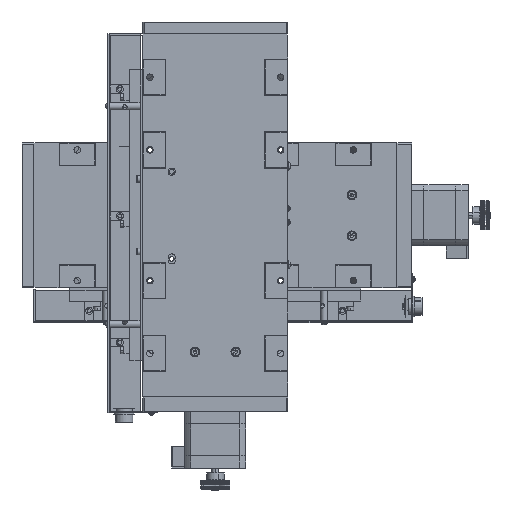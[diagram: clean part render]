
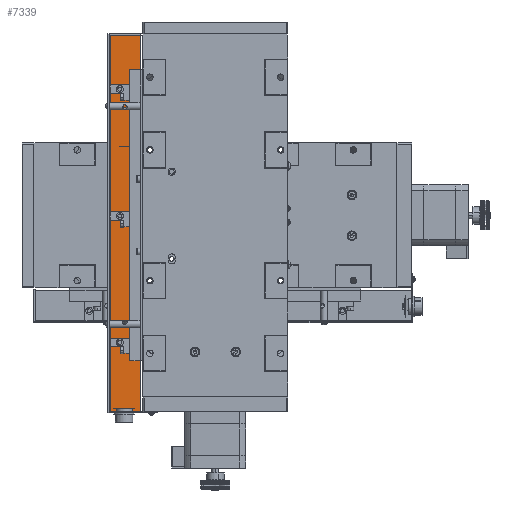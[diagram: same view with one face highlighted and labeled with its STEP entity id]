
A CAD part, front view. The second image highlights one B-rep face of the part: STEP entity #7339.
In plain terms, the highlighted planar face has unit normal (0, -1, 0).
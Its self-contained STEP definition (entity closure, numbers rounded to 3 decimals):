
#1586 = DIRECTION ( 'NONE',  ( 0., -1., 0. ) ) ;
#1671 = EDGE_CURVE ( 'NONE', #6000, #93230, #4130, .T. ) ;
#1884 = ORIENTED_EDGE ( 'NONE', *, *, #1671, .T. ) ;
#4130 = CIRCLE ( 'NONE', #47778, 0.5 ) ;
#4305 = LINE ( 'NONE', #35167, #61504 ) ;
#4612 = CARTESIAN_POINT ( 'NONE',  ( 89.779, 200.67, 128.122 ) ) ;
#6000 = VERTEX_POINT ( 'NONE', #78553 ) ;
#6716 = VECTOR ( 'NONE', #91966, 1000. ) ;
#7133 = VECTOR ( 'NONE', #12321, 1000. ) ;
#7339 = ADVANCED_FACE ( 'NONE', ( #94026 ), #24642, .T. ) ;
#8492 = DIRECTION ( 'NONE',  ( 0., 0., 1. ) ) ;
#8788 = VERTEX_POINT ( 'NONE', #39230 ) ;
#11649 = CARTESIAN_POINT ( 'NONE',  ( 69.015, 200.67, 129.359 ) ) ;
#11852 = ORIENTED_EDGE ( 'NONE', *, *, #47783, .T. ) ;
#12321 = DIRECTION ( 'NONE',  ( -1., 0., 0. ) ) ;
#14143 = ORIENTED_EDGE ( 'NONE', *, *, #85265, .T. ) ;
#14153 = AXIS2_PLACEMENT_3D ( 'NONE', #66520, #97418, #28039 ) ;
#15518 = CARTESIAN_POINT ( 'NONE',  ( 89.279, 200.67, 128.122 ) ) ;
#15805 = DIRECTION ( 'NONE',  ( 0., -1., 0. ) ) ;
#17043 = DIRECTION ( 'NONE',  ( 1., 0., 0. ) ) ;
#20989 = CARTESIAN_POINT ( 'NONE',  ( 69.015, 200.67, 388.122 ) ) ;
#22991 = VERTEX_POINT ( 'NONE', #89566 ) ;
#23511 = EDGE_CURVE ( 'NONE', #54410, #6000, #30158, .T. ) ;
#24642 = PLANE ( 'NONE',  #64119 ) ;
#24665 = CARTESIAN_POINT ( 'NONE',  ( 69.515, 200.67, 388.622 ) ) ;
#25598 = CIRCLE ( 'NONE', #82234, 0.5 ) ;
#26122 = LINE ( 'NONE', #57018, #32301 ) ;
#27617 = CARTESIAN_POINT ( 'NONE',  ( 69.015, 200.67, 127.622 ) ) ;
#28039 = DIRECTION ( 'NONE',  ( 1., 0., 0. ) ) ;
#28539 = ORIENTED_EDGE ( 'NONE', *, *, #44169, .F. ) ;
#30158 = LINE ( 'NONE', #61044, #6716 ) ;
#32301 = VECTOR ( 'NONE', #87899, 1000. ) ;
#32442 = DIRECTION ( 'NONE',  ( 1., 0., 0. ) ) ;
#35167 = CARTESIAN_POINT ( 'NONE',  ( 69.015, 200.67, 127.622 ) ) ;
#35474 = ORIENTED_EDGE ( 'NONE', *, *, #23511, .T. ) ;
#39230 = CARTESIAN_POINT ( 'NONE',  ( 69.515, 200.67, 127.622 ) ) ;
#42379 = AXIS2_PLACEMENT_3D ( 'NONE', #70935, #1586, #32442 ) ;
#44169 = EDGE_CURVE ( 'NONE', #94871, #83479, #96991, .T. ) ;
#46124 = CARTESIAN_POINT ( 'NONE',  ( 89.279, 200.67, 388.622 ) ) ;
#46401 = DIRECTION ( 'NONE',  ( 0., -1., 0. ) ) ;
#46687 = DIRECTION ( 'NONE',  ( 1., 0., 0. ) ) ;
#46977 = LINE ( 'NONE', #77862, #63774 ) ;
#47778 = AXIS2_PLACEMENT_3D ( 'NONE', #85187, #15805, #46687 ) ;
#47783 = EDGE_CURVE ( 'NONE', #94871, #8788, #57799, .T. ) ;
#48272 = ORIENTED_EDGE ( 'NONE', *, *, #99123, .T. ) ;
#50810 = LINE ( 'NONE', #81703, #7133 ) ;
#54410 = VERTEX_POINT ( 'NONE', #4612 ) ;
#54839 = ORIENTED_EDGE ( 'NONE', *, *, #74898, .F. ) ;
#55528 = CARTESIAN_POINT ( 'NONE',  ( 89.779, 200.67, 127.622 ) ) ;
#57018 = CARTESIAN_POINT ( 'NONE',  ( 89.779, 200.67, 388.622 ) ) ;
#57799 = CIRCLE ( 'NONE', #14153, 0.5 ) ;
#58498 = DIRECTION ( 'NONE',  ( 0., 0., 1. ) ) ;
#58826 = VECTOR ( 'NONE', #58498, 1000. ) ;
#60611 = VERTEX_POINT ( 'NONE', #84140 ) ;
#61044 = CARTESIAN_POINT ( 'NONE',  ( 89.779, 200.67, 127.622 ) ) ;
#61504 = VECTOR ( 'NONE', #66035, 1000. ) ;
#63774 = VECTOR ( 'NONE', #8492, 1000. ) ;
#64119 = AXIS2_PLACEMENT_3D ( 'NONE', #55528, #86435, #17043 ) ;
#66035 = DIRECTION ( 'NONE',  ( 0., 0., 1. ) ) ;
#66520 = CARTESIAN_POINT ( 'NONE',  ( 69.515, 200.67, 128.122 ) ) ;
#66930 = EDGE_CURVE ( 'NONE', #60611, #8788, #50810, .T. ) ;
#70935 = CARTESIAN_POINT ( 'NONE',  ( 69.515, 200.67, 388.122 ) ) ;
#71335 = ORIENTED_EDGE ( 'NONE', *, *, #93713, .F. ) ;
#74898 = EDGE_CURVE ( 'NONE', #83479, #22991, #4305, .T. ) ;
#74946 = VERTEX_POINT ( 'NONE', #20989 ) ;
#77288 = DIRECTION ( 'NONE',  ( 1., 0., 0. ) ) ;
#77693 = VERTEX_POINT ( 'NONE', #24665 ) ;
#77862 = CARTESIAN_POINT ( 'NONE',  ( 69.015, 200.67, 127.622 ) ) ;
#78378 = CARTESIAN_POINT ( 'NONE',  ( 69.015, 200.67, 128.122 ) ) ;
#78553 = CARTESIAN_POINT ( 'NONE',  ( 89.779, 200.67, 388.122 ) ) ;
#81703 = CARTESIAN_POINT ( 'NONE',  ( 89.779, 200.67, 127.622 ) ) ;
#82234 = AXIS2_PLACEMENT_3D ( 'NONE', #15518, #46401, #77288 ) ;
#83479 = VERTEX_POINT ( 'NONE', #11649 ) ;
#84140 = CARTESIAN_POINT ( 'NONE',  ( 89.279, 200.67, 127.622 ) ) ;
#85187 = CARTESIAN_POINT ( 'NONE',  ( 89.279, 200.67, 388.122 ) ) ;
#85265 = EDGE_CURVE ( 'NONE', #93230, #77693, #26122, .T. ) ;
#86084 = CIRCLE ( 'NONE', #42379, 0.5 ) ;
#86435 = DIRECTION ( 'NONE',  ( 0., -1., 0. ) ) ;
#87711 = EDGE_CURVE ( 'NONE', #77693, #74946, #86084, .T. ) ;
#87899 = DIRECTION ( 'NONE',  ( -1., 0., 0. ) ) ;
#89566 = CARTESIAN_POINT ( 'NONE',  ( 69.015, 200.67, 386.886 ) ) ;
#90110 = ORIENTED_EDGE ( 'NONE', *, *, #87711, .T. ) ;
#91780 = EDGE_LOOP ( 'NONE', ( #91990, #48272, #35474, #1884, #14143, #90110, #71335, #54839, #28539, #11852 ) ) ;
#91966 = DIRECTION ( 'NONE',  ( 0., 0., 1. ) ) ;
#91990 = ORIENTED_EDGE ( 'NONE', *, *, #66930, .F. ) ;
#93230 = VERTEX_POINT ( 'NONE', #46124 ) ;
#93713 = EDGE_CURVE ( 'NONE', #22991, #74946, #46977, .T. ) ;
#94026 = FACE_OUTER_BOUND ( 'NONE', #91780, .T. ) ;
#94871 = VERTEX_POINT ( 'NONE', #78378 ) ;
#96991 = LINE ( 'NONE', #27617, #58826 ) ;
#97418 = DIRECTION ( 'NONE',  ( 0., -1., 0. ) ) ;
#99123 = EDGE_CURVE ( 'NONE', #60611, #54410, #25598, .T. ) ;
